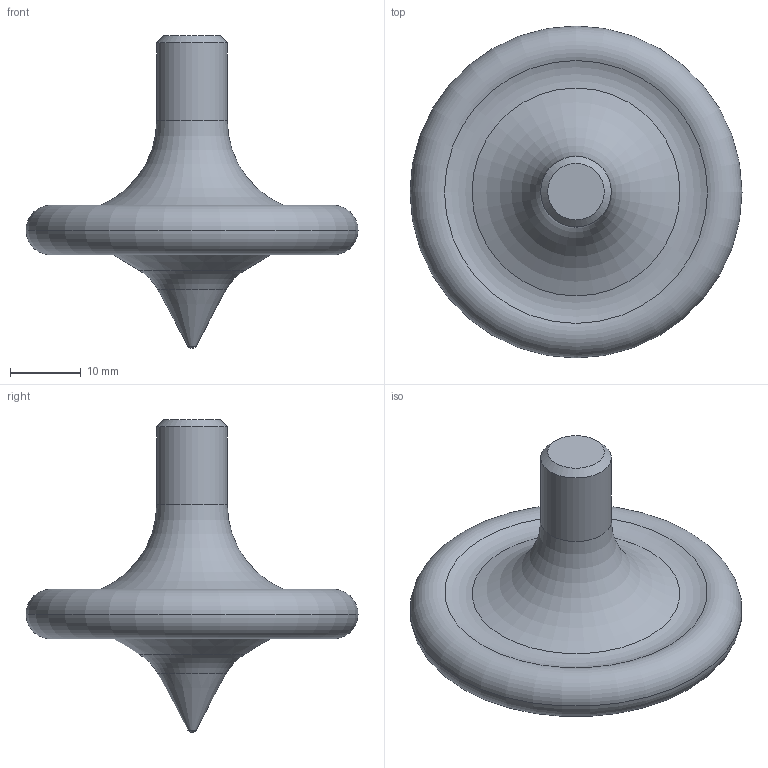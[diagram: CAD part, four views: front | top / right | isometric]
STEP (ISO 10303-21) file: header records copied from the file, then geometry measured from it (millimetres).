
FILE_DESCRIPTION(('HOOPS Exchange Step'),'2;1');
FILE_NAME('/private/var/mobile/Containers/Data/Application/6A221F3C-4013-4CF2-BF10-266E8049BE3B/tmp/export/temp_export.step','2019-09-11T18:33:23+03:00',('mobile'),('Shapr3D Limited'),'HOOPS Exchange 2018.1','Shapr3D','Authorized');
FILE_SCHEMA( ('AP203_CONFIGURATION_CONTROLLED_3D_DESIGN_OF_MECHANICAL_PARTS_AND_ASSEMBLIES_MIM_LF') );
Length unit declared in the file: millimetre
Products named in the file (1):  01
Bounding box: 47 x 47 x 44.22 mm (x, y, z)
Volume: 14696.1 mm3; surface area: 4921 mm2
Topology: 1 solids, 1 shells, 14 faces, 33 edges, 21 vertices
Faces by surface type: torus 7, cone 3, plane 2, sphere 1, cylinder 1
Full cylindrical faces by diameter (mm): 10 x1
Entity records: 440 total; most frequent: DIRECTION 90, CARTESIAN_POINT 68, ORIENTED_EDGE 64, AXIS2_PLACEMENT_3D 43, EDGE_CURVE 32, CIRCLE 28, VERTEX_POINT 21, EDGE_LOOP 15
